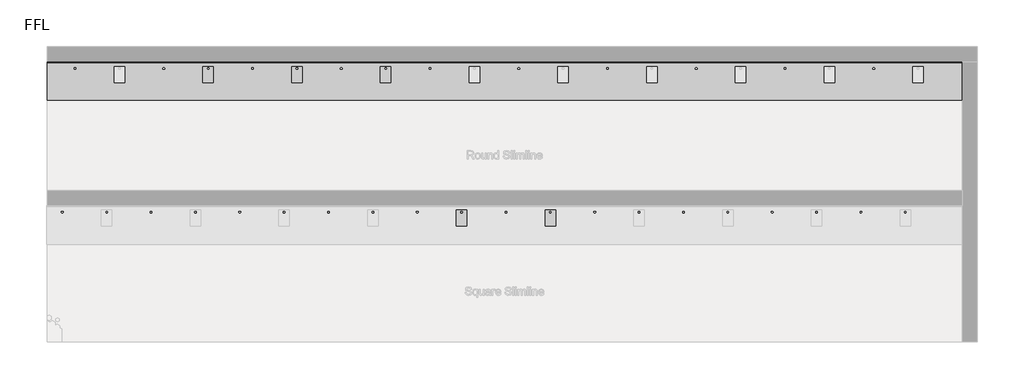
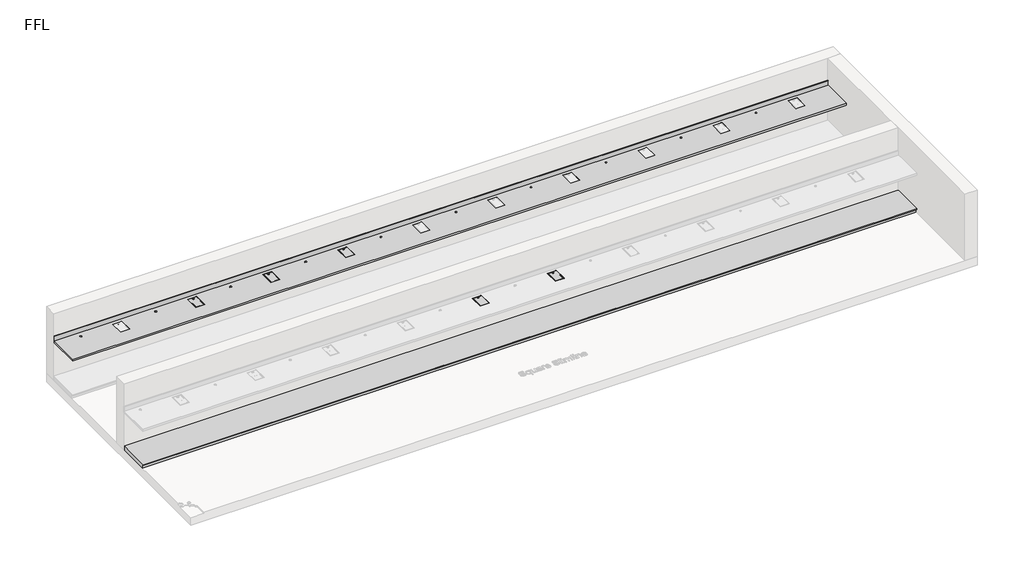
# One storey, part 2 of 3: 5 flow terminals, 2 furniture elements.
"""IFC4 building model written with IfcOpenShell, lengths in millimetres."""

from ifc_helpers import new_model, si_unit, frame, origin, place, context, project, spatial, polyline, circle_curve, transform, mapped, element, save
from ifc_brep_helpers import plane_surface, revolved_surface, advanced_brep
from components import brushed_f93afeca, generic_plinth_700mm_6c846d5c

model = new_model("IFC4")

# Units and contexts
model_context = context("Model", 3, world=origin())
ifc_project = project(units=[si_unit("LENGTHUNIT", "METRE", prefix="MILLI")], contexts=[model_context])

# Site, building, storey
site = spatial("IfcSite", under=ifc_project)
building = spatial("IfcBuilding", under=site)
storey = spatial("IfcBuildingStorey", under=building, Name="FFL", Elevation=0.0)

# Flow terminals
placement = place(None, origin())
brushed_shape = brushed_f93afeca(model_context)
element("IfcFlowTerminal", 1, ObjectType="z_PlumFixt_Billi_Slimline Font : Brushed", at=placement, inside=storey, context=model_context, shape_type="MappedRepresentation", body=[
    mapped(brushed_shape, transform((6509.2647071, 11033.3893304, 900.0), x_axis=(1.0, 0.0, 0.0), y_axis=(0.0, 1.0, 0.0), z_axis=(0.0, 0.0, 1.0))),
])
element("IfcFlowTerminal", 2, ObjectType="z_PlumFixt_Billi_Slimline Font : Chrome", at=placement, inside=storey, context=model_context, shape_type="MappedRepresentation", body=[
    mapped(brushed_shape, transform((339.2647071, 13626.6047841, 900.0), x_axis=(1.0, 0.0, 0.0), y_axis=(0.0, 1.0, 0.0), z_axis=(0.0, 0.0, 1.0))),
])
element("IfcFlowTerminal", 3, ObjectType="z_PlumFixt_Billi_Slimline Font : Matte Black", at=placement, inside=storey, context=model_context, shape_type="MappedRepresentation", body=[
    mapped(brushed_shape, transform((1939.2647071, 13626.6047841, 900.0), x_axis=(1.0, 0.0, 0.0), y_axis=(0.0, 1.0, 0.0), z_axis=(0.0, 0.0, 1.0))),
])
element("IfcFlowTerminal", 4, ObjectType="z_PlumFixt_Billi_Slimline Font : Matte White", at=placement, inside=storey, context=model_context, shape_type="MappedRepresentation", body=[
    mapped(brushed_shape, transform((3539.2647071, 13626.6047841, 900.0), x_axis=(1.0, 0.0, 0.0), y_axis=(0.0, 1.0, 0.0), z_axis=(0.0, 0.0, 1.0))),
])
element("IfcFlowTerminal", 5, ObjectType="z_PlumFixt_Billi_Slimline Font : Rose Gold", at=placement, inside=storey, context=model_context, shape_type="MappedRepresentation", body=[
    mapped(brushed_shape, transform((4909.2647071, 11033.3893304, 900.0), x_axis=(1.0, 0.0, 0.0), y_axis=(0.0, 1.0, 0.0), z_axis=(0.0, 0.0, 1.0))),
])

# Furniture
element("IfcFurniture", 6, ObjectType="Counter Top : 700mm Depth", at=placement, inside=storey, context=model_context, shape_type="AdvancedBrep", body=[
    advanced_brep(
    [(-2559.7352929, 13148.2393304, 900.0), (13940.2647071, 13148.2393304, 900.0), (13940.2647071, 13829.1893304, 900.0), (-2559.7352929, 13829.1893304, 900.0), (-2059.7352929, 13737.4547841, 900.0), (-2059.7352929, 13705.4547841, 900.0), (-1164.2352929, 13467.3547841, 900.0), (-1355.2352929, 13467.3547841, 900.0), (-1355.2352929, 13758.3547841, 900.0), (-1164.2352929, 13758.3547841, 900.0), (-459.7352929, 13737.4547841, 900.0), (-459.7352929, 13705.4547841, 900.0), (435.7647071, 13467.3547841, 900.0), (244.7647071, 13467.3547841, 900.0), (244.7647071, 13758.3547841, 900.0), (435.7647071, 13758.3547841, 900.0), (1140.2647071, 13737.4547841, 900.0), (1140.2647071, 13705.4547841, 900.0), (2035.7647071, 13467.3547841, 900.0), (1844.7647071, 13467.3547841, 900.0), (1844.7647071, 13758.3547841, 900.0), (2035.7647071, 13758.3547841, 900.0), (2740.2647071, 13737.4547841, 900.0), (2740.2647071, 13705.4547841, 900.0), (3635.7647071, 13467.3547841, 900.0), (3444.7647071, 13467.3547841, 900.0), (3444.7647071, 13758.3547841, 900.0), (3635.7647071, 13758.3547841, 900.0), (4340.2647071, 13737.4547841, 900.0), (4340.2647071, 13705.4547841, 900.0), (5235.7647071, 13467.3547841, 900.0), (5044.7647071, 13467.3547841, 900.0), (5044.7647071, 13758.3547841, 900.0), (5235.7647071, 13758.3547841, 900.0), (5940.2647071, 13737.4547841, 900.0), (5940.2647071, 13705.4547841, 900.0), (6835.7647071, 13467.3547841, 900.0), (6644.7647071, 13467.3547841, 900.0), (6644.7647071, 13758.3547841, 900.0), (6835.7647071, 13758.3547841, 900.0), (7540.2647071, 13737.4547841, 900.0), (7540.2647071, 13705.4547841, 900.0), (8435.7647071, 13467.3547841, 900.0), (8244.7647071, 13467.3547841, 900.0), (8244.7647071, 13758.3547841, 900.0), (8435.7647071, 13758.3547841, 900.0), (9140.2647071, 13737.4547841, 900.0), (9140.2647071, 13705.4547841, 900.0), (10035.7647071, 13467.3547841, 900.0), (9844.7647071, 13467.3547841, 900.0), (9844.7647071, 13758.3547841, 900.0), (10035.7647071, 13758.3547841, 900.0), (10740.2647071, 13737.4547841, 900.0), (10740.2647071, 13705.4547841, 900.0), (11635.7647071, 13467.3547841, 900.0), (11444.7647071, 13467.3547841, 900.0), (11444.7647071, 13758.3547841, 900.0), (11635.7647071, 13758.3547841, 900.0), (12340.2647071, 13737.4547841, 900.0), (12340.2647071, 13705.4547841, 900.0), (13235.7647071, 13467.3547841, 900.0), (13044.7647071, 13467.3547841, 900.0), (13044.7647071, 13758.3547841, 900.0), (13235.7647071, 13758.3547841, 900.0), (13940.2647071, 13848.2393304, 860.0), (13940.2647071, 13148.2393304, 860.0), (-2559.7352929, 13148.2393304, 860.0), (-2559.7352929, 13848.2393304, 860.0), (-2059.7352929, 13705.4547841, 860.0), (-2059.7352929, 13737.4547841, 860.0), (-1346.7352929, 13475.8547841, 860.0), (-1172.7352929, 13475.8547841, 860.0), (-1172.7352929, 13749.8547841, 860.0), (-1346.7352929, 13749.8547841, 860.0), (-459.7352929, 13705.4547841, 860.0), (-459.7352929, 13737.4547841, 860.0), (253.2647071, 13475.8547841, 860.0), (427.2647071, 13475.8547841, 860.0), (427.2647071, 13749.8547841, 860.0), (253.2647071, 13749.8547841, 860.0), (1140.2647071, 13705.4547841, 860.0), (1140.2647071, 13737.4547841, 860.0), (1853.2647071, 13475.8547841, 860.0), (2027.2647071, 13475.8547841, 860.0), (2027.2647071, 13749.8547841, 860.0), (1853.2647071, 13749.8547841, 860.0), (2740.2647071, 13705.4547841, 860.0), (2740.2647071, 13737.4547841, 860.0), (3453.2647071, 13475.8547841, 860.0), (3627.2647071, 13475.8547841, 860.0), (3627.2647071, 13749.8547841, 860.0), (3453.2647071, 13749.8547841, 860.0), (4340.2647071, 13705.4547841, 860.0), (4340.2647071, 13737.4547841, 860.0), (5053.2647071, 13475.8547841, 860.0), (5227.2647071, 13475.8547841, 860.0), (5227.2647071, 13749.8547841, 860.0), (5053.2647071, 13749.8547841, 860.0), (5940.2647071, 13705.4547841, 860.0), (5940.2647071, 13737.4547841, 860.0), (6653.2647071, 13475.8547841, 860.0), (6827.2647071, 13475.8547841, 860.0), (6827.2647071, 13749.8547841, 860.0), (6653.2647071, 13749.8547841, 860.0), (7540.2647071, 13705.4547841, 860.0), (7540.2647071, 13737.4547841, 860.0), (8253.2647071, 13475.8547841, 860.0), (8427.2647071, 13475.8547841, 860.0), (8427.2647071, 13749.8547841, 860.0), (8253.2647071, 13749.8547841, 860.0), (9140.2647071, 13705.4547841, 860.0), (9140.2647071, 13737.4547841, 860.0), (9853.2647071, 13475.8547841, 860.0), (10027.2647071, 13475.8547841, 860.0), (10027.2647071, 13749.8547841, 860.0), (9853.2647071, 13749.8547841, 860.0), (10740.2647071, 13705.4547841, 860.0), (10740.2647071, 13737.4547841, 860.0), (11453.2647071, 13475.8547841, 860.0), (11627.2647071, 13475.8547841, 860.0), (11627.2647071, 13749.8547841, 860.0), (11453.2647071, 13749.8547841, 860.0), (12340.2647071, 13705.4547841, 860.0), (12340.2647071, 13737.4547841, 860.0), (13053.2647071, 13475.8547841, 860.0), (13227.2647071, 13475.8547841, 860.0), (13227.2647071, 13749.8547841, 860.0), (13053.2647071, 13749.8547841, 860.0), (-2559.7352929, 13848.2393304, 1001.6), (13940.2647071, 13848.2393304, 1001.6), (-2559.7352929, 13829.1893304, 1001.6), (13940.2647071, 13829.1893304, 1001.6), (-1346.7352929, 13475.8547841, 894.5), (-1172.7352929, 13475.8547841, 894.5), (-1164.2352929, 13467.3547841, 894.5), (-1355.2352929, 13467.3547841, 894.5), (-1172.7352929, 13749.8547841, 894.5), (-1164.2352929, 13758.3547841, 894.5), (-1346.7352929, 13749.8547841, 894.5), (-1355.2352929, 13758.3547841, 894.5), (253.2647071, 13475.8547841, 894.5), (427.2647071, 13475.8547841, 894.5), (435.7647071, 13467.3547841, 894.5), (244.7647071, 13467.3547841, 894.5), (427.2647071, 13749.8547841, 894.5), (435.7647071, 13758.3547841, 894.5), (253.2647071, 13749.8547841, 894.5), (244.7647071, 13758.3547841, 894.5), (1853.2647071, 13475.8547841, 894.5), (2027.2647071, 13475.8547841, 894.5), (2035.7647071, 13467.3547841, 894.5), (1844.7647071, 13467.3547841, 894.5), (2027.2647071, 13749.8547841, 894.5), (2035.7647071, 13758.3547841, 894.5), (1853.2647071, 13749.8547841, 894.5), (1844.7647071, 13758.3547841, 894.5), (3453.2647071, 13475.8547841, 894.5), (3627.2647071, 13475.8547841, 894.5), (3635.7647071, 13467.3547841, 894.5), (3444.7647071, 13467.3547841, 894.5), (3627.2647071, 13749.8547841, 894.5), (3635.7647071, 13758.3547841, 894.5), (3453.2647071, 13749.8547841, 894.5), (3444.7647071, 13758.3547841, 894.5), (5053.2647071, 13475.8547841, 894.5), (5227.2647071, 13475.8547841, 894.5), (5235.7647071, 13467.3547841, 894.5), (5044.7647071, 13467.3547841, 894.5), (5227.2647071, 13749.8547841, 894.5), (5235.7647071, 13758.3547841, 894.5), (5053.2647071, 13749.8547841, 894.5), (5044.7647071, 13758.3547841, 894.5), (6653.2647071, 13475.8547841, 894.5), (6827.2647071, 13475.8547841, 894.5), (6835.7647071, 13467.3547841, 894.5), (6644.7647071, 13467.3547841, 894.5), (6827.2647071, 13749.8547841, 894.5), (6835.7647071, 13758.3547841, 894.5), (6653.2647071, 13749.8547841, 894.5), (6644.7647071, 13758.3547841, 894.5), (8253.2647071, 13475.8547841, 894.5), (8427.2647071, 13475.8547841, 894.5), (8435.7647071, 13467.3547841, 894.5), (8244.7647071, 13467.3547841, 894.5), (8427.2647071, 13749.8547841, 894.5), (8435.7647071, 13758.3547841, 894.5), (8253.2647071, 13749.8547841, 894.5), (8244.7647071, 13758.3547841, 894.5), (9853.2647071, 13475.8547841, 894.5), (10027.2647071, 13475.8547841, 894.5), (10035.7647071, 13467.3547841, 894.5), (9844.7647071, 13467.3547841, 894.5), (10027.2647071, 13749.8547841, 894.5), (10035.7647071, 13758.3547841, 894.5), (9853.2647071, 13749.8547841, 894.5), (9844.7647071, 13758.3547841, 894.5), (11453.2647071, 13475.8547841, 894.5), (11627.2647071, 13475.8547841, 894.5), (11635.7647071, 13467.3547841, 894.5), (11444.7647071, 13467.3547841, 894.5), (11627.2647071, 13749.8547841, 894.5), (11635.7647071, 13758.3547841, 894.5), (11453.2647071, 13749.8547841, 894.5), (11444.7647071, 13758.3547841, 894.5), (13053.2647071, 13475.8547841, 894.5), (13227.2647071, 13475.8547841, 894.5), (13235.7647071, 13467.3547841, 894.5), (13044.7647071, 13467.3547841, 894.5), (13227.2647071, 13749.8547841, 894.5), (13235.7647071, 13758.3547841, 894.5), (13053.2647071, 13749.8547841, 894.5), (13044.7647071, 13758.3547841, 894.5)],
    [
        (0, 1),
        (1, 2),
        (2, 3),
        (3, 0),
        (4, 5, circle_curve(frame((-2059.7352929, 13721.4547841, 900.0), z_axis=(0.0, 0.0, -1.0), x_axis=(0.0, 1.0, 0.0)), 16.0)),
        (5, 4, circle_curve(frame((-2059.7352929, 13721.4547841, 900.0), z_axis=(0.0, 0.0, -1.0), x_axis=(0.0, 1.0, 0.0)), 16.0)),
        (6, 7),
        (7, 8),
        (8, 9),
        (9, 6),
        (10, 11, circle_curve(frame((-459.7352929, 13721.4547841, 900.0), z_axis=(0.0, 0.0, -1.0), x_axis=(0.0, 1.0, 0.0)), 16.0)),
        (11, 10, circle_curve(frame((-459.7352929, 13721.4547841, 900.0), z_axis=(0.0, 0.0, -1.0), x_axis=(0.0, 1.0, 0.0)), 16.0)),
        (12, 13),
        (13, 14),
        (14, 15),
        (15, 12),
        (16, 17, circle_curve(frame((1140.2647071, 13721.4547841, 900.0), z_axis=(0.0, 0.0, -1.0), x_axis=(0.0, 1.0, 0.0)), 16.0)),
        (17, 16, circle_curve(frame((1140.2647071, 13721.4547841, 900.0), z_axis=(0.0, 0.0, -1.0), x_axis=(0.0, 1.0, 0.0)), 16.0)),
        (18, 19),
        (19, 20),
        (20, 21),
        (21, 18),
        (22, 23, circle_curve(frame((2740.2647071, 13721.4547841, 900.0), z_axis=(0.0, 0.0, -1.0), x_axis=(0.0, 1.0, 0.0)), 16.0)),
        (23, 22, circle_curve(frame((2740.2647071, 13721.4547841, 900.0), z_axis=(0.0, 0.0, -1.0), x_axis=(0.0, 1.0, 0.0)), 16.0)),
        (24, 25),
        (25, 26),
        (26, 27),
        (27, 24),
        (28, 29, circle_curve(frame((4340.2647071, 13721.4547841, 900.0), z_axis=(0.0, 0.0, -1.0), x_axis=(0.0, 1.0, 0.0)), 16.0)),
        (29, 28, circle_curve(frame((4340.2647071, 13721.4547841, 900.0), z_axis=(0.0, 0.0, -1.0), x_axis=(0.0, 1.0, 0.0)), 16.0)),
        (30, 31),
        (31, 32),
        (32, 33),
        (33, 30),
        (34, 35, circle_curve(frame((5940.2647071, 13721.4547841, 900.0), z_axis=(0.0, 0.0, -1.0), x_axis=(0.0, 1.0, 0.0)), 16.0)),
        (35, 34, circle_curve(frame((5940.2647071, 13721.4547841, 900.0), z_axis=(0.0, 0.0, -1.0), x_axis=(0.0, 1.0, 0.0)), 16.0)),
        (36, 37),
        (37, 38),
        (38, 39),
        (39, 36),
        (40, 41, circle_curve(frame((7540.2647071, 13721.4547841, 900.0), z_axis=(0.0, 0.0, -1.0), x_axis=(0.0, 1.0, 0.0)), 16.0)),
        (41, 40, circle_curve(frame((7540.2647071, 13721.4547841, 900.0), z_axis=(0.0, 0.0, -1.0), x_axis=(0.0, 1.0, 0.0)), 16.0)),
        (42, 43),
        (43, 44),
        (44, 45),
        (45, 42),
        (46, 47, circle_curve(frame((9140.2647071, 13721.4547841, 900.0), z_axis=(0.0, 0.0, -1.0), x_axis=(0.0, 1.0, 0.0)), 16.0)),
        (47, 46, circle_curve(frame((9140.2647071, 13721.4547841, 900.0), z_axis=(0.0, 0.0, -1.0), x_axis=(0.0, 1.0, 0.0)), 16.0)),
        (48, 49),
        (49, 50),
        (50, 51),
        (51, 48),
        (52, 53, circle_curve(frame((10740.2647071, 13721.4547841, 900.0), z_axis=(0.0, 0.0, -1.0), x_axis=(0.0, 1.0, 0.0)), 16.0)),
        (53, 52, circle_curve(frame((10740.2647071, 13721.4547841, 900.0), z_axis=(0.0, 0.0, -1.0), x_axis=(0.0, 1.0, 0.0)), 16.0)),
        (54, 55),
        (55, 56),
        (56, 57),
        (57, 54),
        (58, 59, circle_curve(frame((12340.2647071, 13721.4547841, 900.0), z_axis=(0.0, 0.0, -1.0), x_axis=(0.0, 1.0, 0.0)), 16.0)),
        (59, 58, circle_curve(frame((12340.2647071, 13721.4547841, 900.0), z_axis=(0.0, 0.0, -1.0), x_axis=(0.0, 1.0, 0.0)), 16.0)),
        (60, 61),
        (61, 62),
        (62, 63),
        (63, 60),
        (64, 65),
        (65, 66),
        (66, 67),
        (67, 64),
        (68, 69, circle_curve(frame((-2059.7352929, 13721.4547841, 860.0), z_axis=(0.0, 0.0, 1.0), x_axis=(0.0, 1.0, 0.0)), 16.0)),
        (69, 68, circle_curve(frame((-2059.7352929, 13721.4547841, 860.0), z_axis=(0.0, 0.0, 1.0), x_axis=(0.0, 1.0, 0.0)), 16.0)),
        (70, 71),
        (71, 72),
        (72, 73),
        (73, 70),
        (74, 75, circle_curve(frame((-459.7352929, 13721.4547841, 860.0), z_axis=(0.0, 0.0, 1.0), x_axis=(0.0, 1.0, 0.0)), 16.0)),
        (75, 74, circle_curve(frame((-459.7352929, 13721.4547841, 860.0), z_axis=(0.0, 0.0, 1.0), x_axis=(0.0, 1.0, 0.0)), 16.0)),
        (76, 77),
        (77, 78),
        (78, 79),
        (79, 76),
        (80, 81, circle_curve(frame((1140.2647071, 13721.4547841, 860.0), z_axis=(0.0, 0.0, 1.0), x_axis=(0.0, 1.0, 0.0)), 16.0)),
        (81, 80, circle_curve(frame((1140.2647071, 13721.4547841, 860.0), z_axis=(0.0, 0.0, 1.0), x_axis=(0.0, 1.0, 0.0)), 16.0)),
        (82, 83),
        (83, 84),
        (84, 85),
        (85, 82),
        (86, 87, circle_curve(frame((2740.2647071, 13721.4547841, 860.0), z_axis=(0.0, 0.0, 1.0), x_axis=(0.0, 1.0, 0.0)), 16.0)),
        (87, 86, circle_curve(frame((2740.2647071, 13721.4547841, 860.0), z_axis=(0.0, 0.0, 1.0), x_axis=(0.0, 1.0, 0.0)), 16.0)),
        (88, 89),
        (89, 90),
        (90, 91),
        (91, 88),
        (92, 93, circle_curve(frame((4340.2647071, 13721.4547841, 860.0), z_axis=(0.0, 0.0, 1.0), x_axis=(0.0, 1.0, 0.0)), 16.0)),
        (93, 92, circle_curve(frame((4340.2647071, 13721.4547841, 860.0), z_axis=(0.0, 0.0, 1.0), x_axis=(0.0, 1.0, 0.0)), 16.0)),
        (94, 95),
        (95, 96),
        (96, 97),
        (97, 94),
        (98, 99, circle_curve(frame((5940.2647071, 13721.4547841, 860.0), z_axis=(0.0, 0.0, 1.0), x_axis=(0.0, 1.0, 0.0)), 16.0)),
        (99, 98, circle_curve(frame((5940.2647071, 13721.4547841, 860.0), z_axis=(0.0, 0.0, 1.0), x_axis=(0.0, 1.0, 0.0)), 16.0)),
        (100, 101),
        (101, 102),
        (102, 103),
        (103, 100),
        (104, 105, circle_curve(frame((7540.2647071, 13721.4547841, 860.0), z_axis=(0.0, 0.0, 1.0), x_axis=(0.0, 1.0, 0.0)), 16.0)),
        (105, 104, circle_curve(frame((7540.2647071, 13721.4547841, 860.0), z_axis=(0.0, 0.0, 1.0), x_axis=(0.0, 1.0, 0.0)), 16.0)),
        (106, 107),
        (107, 108),
        (108, 109),
        (109, 106),
        (110, 111, circle_curve(frame((9140.2647071, 13721.4547841, 860.0), z_axis=(0.0, 0.0, 1.0), x_axis=(0.0, 1.0, 0.0)), 16.0)),
        (111, 110, circle_curve(frame((9140.2647071, 13721.4547841, 860.0), z_axis=(0.0, 0.0, 1.0), x_axis=(0.0, 1.0, 0.0)), 16.0)),
        (112, 113),
        (113, 114),
        (114, 115),
        (115, 112),
        (116, 117, circle_curve(frame((10740.2647071, 13721.4547841, 860.0), z_axis=(0.0, 0.0, 1.0), x_axis=(0.0, 1.0, 0.0)), 16.0)),
        (117, 116, circle_curve(frame((10740.2647071, 13721.4547841, 860.0), z_axis=(0.0, 0.0, 1.0), x_axis=(0.0, 1.0, 0.0)), 16.0)),
        (118, 119),
        (119, 120),
        (120, 121),
        (121, 118),
        (122, 123, circle_curve(frame((12340.2647071, 13721.4547841, 860.0), z_axis=(0.0, 0.0, 1.0), x_axis=(0.0, 1.0, 0.0)), 16.0)),
        (123, 122, circle_curve(frame((12340.2647071, 13721.4547841, 860.0), z_axis=(0.0, 0.0, 1.0), x_axis=(0.0, 1.0, 0.0)), 16.0)),
        (124, 125),
        (125, 126),
        (126, 127),
        (127, 124),
        (67, 128),
        (128, 129),
        (129, 64),
        (3, 130),
        (130, 128),
        (66, 0),
        (65, 1),
        (129, 131),
        (131, 2),
        (130, 131),
        (68, 5),
        (4, 69),
        (132, 133),
        (133, 71),
        (70, 132),
        (6, 134),
        (134, 135),
        (135, 7),
        (133, 136),
        (136, 72),
        (9, 137),
        (137, 134),
        (136, 138),
        (138, 73),
        (8, 139),
        (139, 137),
        (138, 132),
        (139, 135),
        (74, 11),
        (10, 75),
        (140, 141),
        (141, 77),
        (76, 140),
        (12, 142),
        (142, 143),
        (143, 13),
        (141, 144),
        (144, 78),
        (15, 145),
        (145, 142),
        (144, 146),
        (146, 79),
        (14, 147),
        (147, 145),
        (146, 140),
        (147, 143),
        (80, 17),
        (16, 81),
        (148, 149),
        (149, 83),
        (82, 148),
        (18, 150),
        (150, 151),
        (151, 19),
        (149, 152),
        (152, 84),
        (21, 153),
        (153, 150),
        (152, 154),
        (154, 85),
        (20, 155),
        (155, 153),
        (154, 148),
        (155, 151),
        (86, 23),
        (22, 87),
        (156, 157),
        (157, 89),
        (88, 156),
        (24, 158),
        (158, 159),
        (159, 25),
        (157, 160),
        (160, 90),
        (27, 161),
        (161, 158),
        (160, 162),
        (162, 91),
        (26, 163),
        (163, 161),
        (162, 156),
        (163, 159),
        (92, 29),
        (28, 93),
        (164, 165),
        (165, 95),
        (94, 164),
        (30, 166),
        (166, 167),
        (167, 31),
        (165, 168),
        (168, 96),
        (33, 169),
        (169, 166),
        (168, 170),
        (170, 97),
        (32, 171),
        (171, 169),
        (170, 164),
        (171, 167),
        (98, 35),
        (34, 99),
        (172, 173),
        (173, 101),
        (100, 172),
        (36, 174),
        (174, 175),
        (175, 37),
        (173, 176),
        (176, 102),
        (39, 177),
        (177, 174),
        (176, 178),
        (178, 103),
        (38, 179),
        (179, 177),
        (178, 172),
        (179, 175),
        (104, 41),
        (40, 105),
        (180, 181),
        (181, 107),
        (106, 180),
        (42, 182),
        (182, 183),
        (183, 43),
        (181, 184),
        (184, 108),
        (45, 185),
        (185, 182),
        (184, 186),
        (186, 109),
        (44, 187),
        (187, 185),
        (186, 180),
        (187, 183),
        (110, 47),
        (46, 111),
        (188, 189),
        (189, 113),
        (112, 188),
        (48, 190),
        (190, 191),
        (191, 49),
        (189, 192),
        (192, 114),
        (51, 193),
        (193, 190),
        (192, 194),
        (194, 115),
        (50, 195),
        (195, 193),
        (194, 188),
        (195, 191),
        (116, 53),
        (52, 117),
        (196, 197),
        (197, 119),
        (118, 196),
        (54, 198),
        (198, 199),
        (199, 55),
        (197, 200),
        (200, 120),
        (57, 201),
        (201, 198),
        (200, 202),
        (202, 121),
        (56, 203),
        (203, 201),
        (202, 196),
        (203, 199),
        (122, 59),
        (58, 123),
        (204, 205),
        (205, 125),
        (124, 204),
        (60, 206),
        (206, 207),
        (207, 61),
        (205, 208),
        (208, 126),
        (63, 209),
        (209, 206),
        (208, 210),
        (210, 127),
        (62, 211),
        (211, 209),
        (210, 204),
        (211, 207),
    ],
    [
        plane_surface(frame((-2559.7352929, 13848.2393304, 900.0), z_axis=(0.0, 0.0, 1.0), x_axis=(-1.0, 0.0, 0.0))),
        plane_surface(frame((-2559.7352929, 13848.2393304, 860.0), z_axis=(0.0, 0.0, -1.0), x_axis=(1.0, 0.0, 0.0))),
        plane_surface(frame((13940.2647071, 13848.2393304, 900.0), z_axis=(0.0, 1.0, 0.0), x_axis=(0.0, 0.0, -1.0))),
        plane_surface(frame((-2559.7352929, 13848.2393304, 900.0), z_axis=(-1.0, 0.0, 0.0), x_axis=(0.0, 0.0, -1.0))),
        plane_surface(frame((-2559.7352929, 13148.2393304, 900.0), z_axis=(0.0, -1.0, 0.0), x_axis=(0.0, 0.0, -1.0))),
        plane_surface(frame((13940.2647071, 13148.2393304, 900.0), z_axis=(1.0, 0.0, 0.0), x_axis=(0.0, 0.0, -1.0))),
        plane_surface(frame((-2559.7352929, 13848.2393304, 1001.6), z_axis=(0.0, 0.0, 1.0), x_axis=(0.0, -1.0, 0.0))),
        plane_surface(frame((-2559.7352929, 13829.1893304, 1001.6), z_axis=(0.0, -1.0, 0.0), x_axis=(0.0, 0.0, -1.0))),
        revolved_surface(polyline([(-2059.7352929, 13737.4547841, 900.0), (-2059.7352929, 13737.4547841, 860.0)]), (-2059.7352929, 13721.4547841, 800.0), (0.0, 0.0, 1.0)),
        plane_surface(frame((-1346.7352929, 13475.8547841, 800.0), z_axis=(0.0, 1.0, 0.0), x_axis=(1.0, 0.0, 0.0))),
        plane_surface(frame((-1355.2352929, 13467.3547841, 894.5), z_axis=(0.0, 1.0, 0.0), x_axis=(1.0, 0.0, 0.0))),
        plane_surface(frame((-1172.7352929, 13475.8547841, 800.0), z_axis=(-1.0, 0.0, 0.0), x_axis=(0.0, 1.0, 0.0))),
        plane_surface(frame((-1164.2352929, 13467.3547841, 894.5), z_axis=(-1.0, 0.0, 0.0), x_axis=(0.0, 1.0, 0.0))),
        plane_surface(frame((-1172.7352929, 13749.8547841, 800.0), z_axis=(0.0, -1.0, 0.0), x_axis=(-1.0, 0.0, 0.0))),
        plane_surface(frame((-1164.2352929, 13758.3547841, 894.5), z_axis=(0.0, -1.0, 0.0), x_axis=(-1.0, 0.0, 0.0))),
        plane_surface(frame((-1346.7352929, 13749.8547841, 800.0), z_axis=(1.0, 0.0, 0.0), x_axis=(0.0, -1.0, 0.0))),
        plane_surface(frame((-1346.7352929, 13749.8547841, 894.5), z_axis=(0.0, 0.0, 1.0), x_axis=(0.0, -1.0, 0.0))),
        plane_surface(frame((-1355.2352929, 13758.3547841, 894.5), z_axis=(1.0, 0.0, 0.0), x_axis=(0.0, -1.0, 0.0))),
        revolved_surface(polyline([(-459.7352929, 13737.4547841, 900.0), (-459.7352929, 13737.4547841, 860.0)]), (-459.7352929, 13721.4547841, 800.0), (0.0, 0.0, 1.0)),
        plane_surface(frame((253.2647071, 13475.8547841, 800.0), z_axis=(0.0, 1.0, 0.0), x_axis=(1.0, 0.0, 0.0))),
        plane_surface(frame((244.7647071, 13467.3547841, 894.5), z_axis=(0.0, 1.0, 0.0), x_axis=(1.0, 0.0, 0.0))),
        plane_surface(frame((427.2647071, 13475.8547841, 800.0), z_axis=(-1.0, 0.0, 0.0), x_axis=(0.0, 1.0, 0.0))),
        plane_surface(frame((435.7647071, 13467.3547841, 894.5), z_axis=(-1.0, 0.0, 0.0), x_axis=(0.0, 1.0, 0.0))),
        plane_surface(frame((427.2647071, 13749.8547841, 800.0), z_axis=(0.0, -1.0, 0.0), x_axis=(-1.0, 0.0, 0.0))),
        plane_surface(frame((435.7647071, 13758.3547841, 894.5), z_axis=(0.0, -1.0, 0.0), x_axis=(-1.0, 0.0, 0.0))),
        plane_surface(frame((253.2647071, 13749.8547841, 800.0), z_axis=(1.0, 0.0, 0.0), x_axis=(0.0, -1.0, 0.0))),
        plane_surface(frame((253.2647071, 13749.8547841, 894.5), z_axis=(0.0, 0.0, 1.0), x_axis=(0.0, -1.0, 0.0))),
        plane_surface(frame((244.7647071, 13758.3547841, 894.5), z_axis=(1.0, 0.0, 0.0), x_axis=(0.0, -1.0, 0.0))),
        revolved_surface(polyline([(1140.2647071, 13737.4547841, 900.0), (1140.2647071, 13737.4547841, 860.0)]), (1140.2647071, 13721.4547841, 800.0), (0.0, 0.0, 1.0)),
        plane_surface(frame((1853.2647071, 13475.8547841, 800.0), z_axis=(0.0, 1.0, 0.0), x_axis=(1.0, 0.0, 0.0))),
        plane_surface(frame((1844.7647071, 13467.3547841, 894.5), z_axis=(0.0, 1.0, 0.0), x_axis=(1.0, 0.0, 0.0))),
        plane_surface(frame((2027.2647071, 13475.8547841, 800.0), z_axis=(-1.0, 0.0, 0.0), x_axis=(0.0, 1.0, 0.0))),
        plane_surface(frame((2035.7647071, 13467.3547841, 894.5), z_axis=(-1.0, 0.0, 0.0), x_axis=(0.0, 1.0, 0.0))),
        plane_surface(frame((2027.2647071, 13749.8547841, 800.0), z_axis=(0.0, -1.0, 0.0), x_axis=(-1.0, 0.0, 0.0))),
        plane_surface(frame((2035.7647071, 13758.3547841, 894.5), z_axis=(0.0, -1.0, 0.0), x_axis=(-1.0, 0.0, 0.0))),
        plane_surface(frame((1853.2647071, 13749.8547841, 800.0), z_axis=(1.0, 0.0, 0.0), x_axis=(0.0, -1.0, 0.0))),
        plane_surface(frame((1853.2647071, 13749.8547841, 894.5), z_axis=(0.0, 0.0, 1.0), x_axis=(0.0, -1.0, 0.0))),
        plane_surface(frame((1844.7647071, 13758.3547841, 894.5), z_axis=(1.0, 0.0, 0.0), x_axis=(0.0, -1.0, 0.0))),
        revolved_surface(polyline([(2740.2647071, 13737.4547841, 900.0), (2740.2647071, 13737.4547841, 860.0)]), (2740.2647071, 13721.4547841, 800.0), (0.0, 0.0, 1.0)),
        plane_surface(frame((3453.2647071, 13475.8547841, 800.0), z_axis=(0.0, 1.0, 0.0), x_axis=(1.0, 0.0, 0.0))),
        plane_surface(frame((3444.7647071, 13467.3547841, 894.5), z_axis=(0.0, 1.0, 0.0), x_axis=(1.0, 0.0, 0.0))),
        plane_surface(frame((3627.2647071, 13475.8547841, 800.0), z_axis=(-1.0, 0.0, 0.0), x_axis=(0.0, 1.0, 0.0))),
        plane_surface(frame((3635.7647071, 13467.3547841, 894.5), z_axis=(-1.0, 0.0, 0.0), x_axis=(0.0, 1.0, 0.0))),
        plane_surface(frame((3627.2647071, 13749.8547841, 800.0), z_axis=(0.0, -1.0, 0.0), x_axis=(-1.0, 0.0, 0.0))),
        plane_surface(frame((3635.7647071, 13758.3547841, 894.5), z_axis=(0.0, -1.0, 0.0), x_axis=(-1.0, 0.0, 0.0))),
        plane_surface(frame((3453.2647071, 13749.8547841, 800.0), z_axis=(1.0, 0.0, 0.0), x_axis=(0.0, -1.0, 0.0))),
        plane_surface(frame((3453.2647071, 13749.8547841, 894.5), z_axis=(0.0, 0.0, 1.0), x_axis=(0.0, -1.0, 0.0))),
        plane_surface(frame((3444.7647071, 13758.3547841, 894.5), z_axis=(1.0, 0.0, 0.0), x_axis=(0.0, -1.0, 0.0))),
        revolved_surface(polyline([(4340.2647071, 13737.4547841, 900.0), (4340.2647071, 13737.4547841, 860.0)]), (4340.2647071, 13721.4547841, 800.0), (0.0, 0.0, 1.0)),
        plane_surface(frame((5053.2647071, 13475.8547841, 800.0), z_axis=(0.0, 1.0, 0.0), x_axis=(1.0, 0.0, 0.0))),
        plane_surface(frame((5044.7647071, 13467.3547841, 894.5), z_axis=(0.0, 1.0, 0.0), x_axis=(1.0, 0.0, 0.0))),
        plane_surface(frame((5227.2647071, 13475.8547841, 800.0), z_axis=(-1.0, 0.0, 0.0), x_axis=(0.0, 1.0, 0.0))),
        plane_surface(frame((5235.7647071, 13467.3547841, 894.5), z_axis=(-1.0, 0.0, 0.0), x_axis=(0.0, 1.0, 0.0))),
        plane_surface(frame((5227.2647071, 13749.8547841, 800.0), z_axis=(0.0, -1.0, 0.0), x_axis=(-1.0, 0.0, 0.0))),
        plane_surface(frame((5235.7647071, 13758.3547841, 894.5), z_axis=(0.0, -1.0, 0.0), x_axis=(-1.0, 0.0, 0.0))),
        plane_surface(frame((5053.2647071, 13749.8547841, 800.0), z_axis=(1.0, 0.0, 0.0), x_axis=(0.0, -1.0, 0.0))),
        plane_surface(frame((5053.2647071, 13749.8547841, 894.5), z_axis=(0.0, 0.0, 1.0), x_axis=(0.0, -1.0, 0.0))),
        plane_surface(frame((5044.7647071, 13758.3547841, 894.5), z_axis=(1.0, 0.0, 0.0), x_axis=(0.0, -1.0, 0.0))),
        revolved_surface(polyline([(5940.2647071, 13737.4547841, 900.0), (5940.2647071, 13737.4547841, 860.0)]), (5940.2647071, 13721.4547841, 800.0), (0.0, 0.0, 1.0)),
        plane_surface(frame((6653.2647071, 13475.8547841, 800.0), z_axis=(0.0, 1.0, 0.0), x_axis=(1.0, 0.0, 0.0))),
        plane_surface(frame((6644.7647071, 13467.3547841, 894.5), z_axis=(0.0, 1.0, 0.0), x_axis=(1.0, 0.0, 0.0))),
        plane_surface(frame((6827.2647071, 13475.8547841, 800.0), z_axis=(-1.0, 0.0, 0.0), x_axis=(0.0, 1.0, 0.0))),
        plane_surface(frame((6835.7647071, 13467.3547841, 894.5), z_axis=(-1.0, 0.0, 0.0), x_axis=(0.0, 1.0, 0.0))),
        plane_surface(frame((6827.2647071, 13749.8547841, 800.0), z_axis=(0.0, -1.0, 0.0), x_axis=(-1.0, 0.0, 0.0))),
        plane_surface(frame((6835.7647071, 13758.3547841, 894.5), z_axis=(0.0, -1.0, 0.0), x_axis=(-1.0, 0.0, 0.0))),
        plane_surface(frame((6653.2647071, 13749.8547841, 800.0), z_axis=(1.0, 0.0, 0.0), x_axis=(0.0, -1.0, 0.0))),
        plane_surface(frame((6653.2647071, 13749.8547841, 894.5), z_axis=(0.0, 0.0, 1.0), x_axis=(0.0, -1.0, 0.0))),
        plane_surface(frame((6644.7647071, 13758.3547841, 894.5), z_axis=(1.0, 0.0, 0.0), x_axis=(0.0, -1.0, 0.0))),
        revolved_surface(polyline([(7540.2647071, 13737.4547841, 900.0), (7540.2647071, 13737.4547841, 860.0)]), (7540.2647071, 13721.4547841, 800.0), (0.0, 0.0, 1.0)),
        plane_surface(frame((8253.2647071, 13475.8547841, 800.0), z_axis=(0.0, 1.0, 0.0), x_axis=(1.0, 0.0, 0.0))),
        plane_surface(frame((8244.7647071, 13467.3547841, 894.5), z_axis=(0.0, 1.0, 0.0), x_axis=(1.0, 0.0, 0.0))),
        plane_surface(frame((8427.2647071, 13475.8547841, 800.0), z_axis=(-1.0, 0.0, 0.0), x_axis=(0.0, 1.0, 0.0))),
        plane_surface(frame((8435.7647071, 13467.3547841, 894.5), z_axis=(-1.0, 0.0, 0.0), x_axis=(0.0, 1.0, 0.0))),
        plane_surface(frame((8427.2647071, 13749.8547841, 800.0), z_axis=(0.0, -1.0, 0.0), x_axis=(-1.0, 0.0, 0.0))),
        plane_surface(frame((8435.7647071, 13758.3547841, 894.5), z_axis=(0.0, -1.0, 0.0), x_axis=(-1.0, 0.0, 0.0))),
        plane_surface(frame((8253.2647071, 13749.8547841, 800.0), z_axis=(1.0, 0.0, 0.0), x_axis=(0.0, -1.0, 0.0))),
        plane_surface(frame((8253.2647071, 13749.8547841, 894.5), z_axis=(0.0, 0.0, 1.0), x_axis=(0.0, -1.0, 0.0))),
        plane_surface(frame((8244.7647071, 13758.3547841, 894.5), z_axis=(1.0, 0.0, 0.0), x_axis=(0.0, -1.0, 0.0))),
        revolved_surface(polyline([(9140.2647071, 13737.4547841, 900.0), (9140.2647071, 13737.4547841, 860.0)]), (9140.2647071, 13721.4547841, 800.0), (0.0, 0.0, 1.0)),
        plane_surface(frame((9853.2647071, 13475.8547841, 800.0), z_axis=(0.0, 1.0, 0.0), x_axis=(1.0, 0.0, 0.0))),
        plane_surface(frame((9844.7647071, 13467.3547841, 894.5), z_axis=(0.0, 1.0, 0.0), x_axis=(1.0, 0.0, 0.0))),
        plane_surface(frame((10027.2647071, 13475.8547841, 800.0), z_axis=(-1.0, 0.0, 0.0), x_axis=(0.0, 1.0, 0.0))),
        plane_surface(frame((10035.7647071, 13467.3547841, 894.5), z_axis=(-1.0, 0.0, 0.0), x_axis=(0.0, 1.0, 0.0))),
        plane_surface(frame((10027.2647071, 13749.8547841, 800.0), z_axis=(0.0, -1.0, 0.0), x_axis=(-1.0, 0.0, 0.0))),
        plane_surface(frame((10035.7647071, 13758.3547841, 894.5), z_axis=(0.0, -1.0, 0.0), x_axis=(-1.0, 0.0, 0.0))),
        plane_surface(frame((9853.2647071, 13749.8547841, 800.0), z_axis=(1.0, 0.0, 0.0), x_axis=(0.0, -1.0, 0.0))),
        plane_surface(frame((9853.2647071, 13749.8547841, 894.5), z_axis=(0.0, 0.0, 1.0), x_axis=(0.0, -1.0, 0.0))),
        plane_surface(frame((9844.7647071, 13758.3547841, 894.5), z_axis=(1.0, 0.0, 0.0), x_axis=(0.0, -1.0, 0.0))),
        revolved_surface(polyline([(10740.2647071, 13737.4547841, 900.0), (10740.2647071, 13737.4547841, 860.0)]), (10740.2647071, 13721.4547841, 800.0), (0.0, 0.0, 1.0)),
        plane_surface(frame((11453.2647071, 13475.8547841, 800.0), z_axis=(0.0, 1.0, 0.0), x_axis=(1.0, 0.0, 0.0))),
        plane_surface(frame((11444.7647071, 13467.3547841, 894.5), z_axis=(0.0, 1.0, 0.0), x_axis=(1.0, 0.0, 0.0))),
        plane_surface(frame((11627.2647071, 13475.8547841, 800.0), z_axis=(-1.0, 0.0, 0.0), x_axis=(0.0, 1.0, 0.0))),
        plane_surface(frame((11635.7647071, 13467.3547841, 894.5), z_axis=(-1.0, 0.0, 0.0), x_axis=(0.0, 1.0, 0.0))),
        plane_surface(frame((11627.2647071, 13749.8547841, 800.0), z_axis=(0.0, -1.0, 0.0), x_axis=(-1.0, 0.0, 0.0))),
        plane_surface(frame((11635.7647071, 13758.3547841, 894.5), z_axis=(0.0, -1.0, 0.0), x_axis=(-1.0, 0.0, 0.0))),
        plane_surface(frame((11453.2647071, 13749.8547841, 800.0), z_axis=(1.0, 0.0, 0.0), x_axis=(0.0, -1.0, 0.0))),
        plane_surface(frame((11453.2647071, 13749.8547841, 894.5), z_axis=(0.0, 0.0, 1.0), x_axis=(0.0, -1.0, 0.0))),
        plane_surface(frame((11444.7647071, 13758.3547841, 894.5), z_axis=(1.0, 0.0, 0.0), x_axis=(0.0, -1.0, 0.0))),
        revolved_surface(polyline([(12340.2647071, 13737.4547841, 900.0), (12340.2647071, 13737.4547841, 860.0)]), (12340.2647071, 13721.4547841, 800.0), (0.0, 0.0, 1.0)),
        plane_surface(frame((13053.2647071, 13475.8547841, 800.0), z_axis=(0.0, 1.0, 0.0), x_axis=(1.0, 0.0, 0.0))),
        plane_surface(frame((13044.7647071, 13467.3547841, 894.5), z_axis=(0.0, 1.0, 0.0), x_axis=(1.0, 0.0, 0.0))),
        plane_surface(frame((13227.2647071, 13475.8547841, 800.0), z_axis=(-1.0, 0.0, 0.0), x_axis=(0.0, 1.0, 0.0))),
        plane_surface(frame((13235.7647071, 13467.3547841, 894.5), z_axis=(-1.0, 0.0, 0.0), x_axis=(0.0, 1.0, 0.0))),
        plane_surface(frame((13227.2647071, 13749.8547841, 800.0), z_axis=(0.0, -1.0, 0.0), x_axis=(-1.0, 0.0, 0.0))),
        plane_surface(frame((13235.7647071, 13758.3547841, 894.5), z_axis=(0.0, -1.0, 0.0), x_axis=(-1.0, 0.0, 0.0))),
        plane_surface(frame((13053.2647071, 13749.8547841, 800.0), z_axis=(1.0, 0.0, 0.0), x_axis=(0.0, -1.0, 0.0))),
        plane_surface(frame((13053.2647071, 13749.8547841, 894.5), z_axis=(0.0, 0.0, 1.0), x_axis=(0.0, -1.0, 0.0))),
        plane_surface(frame((13044.7647071, 13758.3547841, 894.5), z_axis=(1.0, 0.0, 0.0), x_axis=(0.0, -1.0, 0.0))),
    ],
    [
        (0, [[1, 2, 3, 4], [5, 6], [7, 8, 9, 10], [11, 12], [13, 14, 15, 16], [17, 18], [19, 20, 21, 22], [23, 24], [25, 26, 27, 28], [29, 30], [31, 32, 33, 34], [35, 36], [37, 38, 39, 40], [41, 42], [43, 44, 45, 46], [47, 48], [49, 50, 51, 52], [53, 54], [55, 56, 57, 58], [59, 60], [61, 62, 63, 64]]),
        (1, [[65, 66, 67, 68], [69, 70], [71, 72, 73, 74], [75, 76], [77, 78, 79, 80], [81, 82], [83, 84, 85, 86], [87, 88], [89, 90, 91, 92], [93, 94], [95, 96, 97, 98], [99, 100], [101, 102, 103, 104], [105, 106], [107, 108, 109, 110], [111, 112], [113, 114, 115, 116], [117, 118], [119, 120, 121, 122], [123, 124], [125, 126, 127, 128]]),
        (2, [[-68, 129, 130, 131]]),
        (3, [[-4, 132, 133, -129, -67, 134]]),
        (4, [[-1, -134, -66, 135]]),
        (5, [[-2, -135, -65, -131, 136, 137]]),
        (6, [[-130, -133, 138, -136]]),
        (7, [[-3, -137, -138, -132]]),
        (8, [[139, -5, 140, -69]]),
        (8, [[-139, -70, -140, -6]]),
        (9, [[141, 142, -71, 143]]),
        (10, [[144, 145, 146, -7]]),
        (11, [[147, 148, -72, -142]]),
        (12, [[-144, -10, 149, 150]]),
        (13, [[151, 152, -73, -148]]),
        (14, [[-149, -9, 153, 154]]),
        (15, [[155, -143, -74, -152]]),
        (16, [[-145, -150, -154, 156], [-141, -155, -151, -147]]),
        (17, [[-146, -156, -153, -8]]),
        (18, [[157, -11, 158, -75]]),
        (18, [[-157, -76, -158, -12]]),
        (19, [[159, 160, -77, 161]]),
        (20, [[162, 163, 164, -13]]),
        (21, [[165, 166, -78, -160]]),
        (22, [[-162, -16, 167, 168]]),
        (23, [[169, 170, -79, -166]]),
        (24, [[-167, -15, 171, 172]]),
        (25, [[173, -161, -80, -170]]),
        (26, [[-163, -168, -172, 174], [-159, -173, -169, -165]]),
        (27, [[-164, -174, -171, -14]]),
        (28, [[175, -17, 176, -81]]),
        (28, [[-175, -82, -176, -18]]),
        (29, [[177, 178, -83, 179]]),
        (30, [[180, 181, 182, -19]]),
        (31, [[183, 184, -84, -178]]),
        (32, [[-180, -22, 185, 186]]),
        (33, [[187, 188, -85, -184]]),
        (34, [[-185, -21, 189, 190]]),
        (35, [[191, -179, -86, -188]]),
        (36, [[-181, -186, -190, 192], [-177, -191, -187, -183]]),
        (37, [[-182, -192, -189, -20]]),
        (38, [[193, -23, 194, -87]]),
        (38, [[-193, -88, -194, -24]]),
        (39, [[195, 196, -89, 197]]),
        (40, [[198, 199, 200, -25]]),
        (41, [[201, 202, -90, -196]]),
        (42, [[-198, -28, 203, 204]]),
        (43, [[205, 206, -91, -202]]),
        (44, [[-203, -27, 207, 208]]),
        (45, [[209, -197, -92, -206]]),
        (46, [[-199, -204, -208, 210], [-195, -209, -205, -201]]),
        (47, [[-200, -210, -207, -26]]),
        (48, [[211, -29, 212, -93]]),
        (48, [[-211, -94, -212, -30]]),
        (49, [[213, 214, -95, 215]]),
        (50, [[216, 217, 218, -31]]),
        (51, [[219, 220, -96, -214]]),
        (52, [[-216, -34, 221, 222]]),
        (53, [[223, 224, -97, -220]]),
        (54, [[-221, -33, 225, 226]]),
        (55, [[227, -215, -98, -224]]),
        (56, [[-217, -222, -226, 228], [-213, -227, -223, -219]]),
        (57, [[-218, -228, -225, -32]]),
        (58, [[229, -35, 230, -99]]),
        (58, [[-229, -100, -230, -36]]),
        (59, [[231, 232, -101, 233]]),
        (60, [[234, 235, 236, -37]]),
        (61, [[237, 238, -102, -232]]),
        (62, [[-234, -40, 239, 240]]),
        (63, [[241, 242, -103, -238]]),
        (64, [[-239, -39, 243, 244]]),
        (65, [[245, -233, -104, -242]]),
        (66, [[-235, -240, -244, 246], [-231, -245, -241, -237]]),
        (67, [[-236, -246, -243, -38]]),
        (68, [[247, -41, 248, -105]]),
        (68, [[-247, -106, -248, -42]]),
        (69, [[249, 250, -107, 251]]),
        (70, [[252, 253, 254, -43]]),
        (71, [[255, 256, -108, -250]]),
        (72, [[-252, -46, 257, 258]]),
        (73, [[259, 260, -109, -256]]),
        (74, [[-257, -45, 261, 262]]),
        (75, [[263, -251, -110, -260]]),
        (76, [[-253, -258, -262, 264], [-249, -263, -259, -255]]),
        (77, [[-254, -264, -261, -44]]),
        (78, [[265, -47, 266, -111]]),
        (78, [[-265, -112, -266, -48]]),
        (79, [[267, 268, -113, 269]]),
        (80, [[270, 271, 272, -49]]),
        (81, [[273, 274, -114, -268]]),
        (82, [[-270, -52, 275, 276]]),
        (83, [[277, 278, -115, -274]]),
        (84, [[-275, -51, 279, 280]]),
        (85, [[281, -269, -116, -278]]),
        (86, [[-271, -276, -280, 282], [-267, -281, -277, -273]]),
        (87, [[-272, -282, -279, -50]]),
        (88, [[283, -53, 284, -117]]),
        (88, [[-283, -118, -284, -54]]),
        (89, [[285, 286, -119, 287]]),
        (90, [[288, 289, 290, -55]]),
        (91, [[291, 292, -120, -286]]),
        (92, [[-288, -58, 293, 294]]),
        (93, [[295, 296, -121, -292]]),
        (94, [[-293, -57, 297, 298]]),
        (95, [[299, -287, -122, -296]]),
        (96, [[-289, -294, -298, 300], [-285, -299, -295, -291]]),
        (97, [[-290, -300, -297, -56]]),
        (98, [[301, -59, 302, -123]]),
        (98, [[-301, -124, -302, -60]]),
        (99, [[303, 304, -125, 305]]),
        (100, [[306, 307, 308, -61]]),
        (101, [[309, 310, -126, -304]]),
        (102, [[-306, -64, 311, 312]]),
        (103, [[313, 314, -127, -310]]),
        (104, [[-311, -63, 315, 316]]),
        (105, [[317, -305, -128, -314]]),
        (106, [[-307, -312, -316, 318], [-303, -317, -313, -309]]),
        (107, [[-308, -318, -315, -62]]),
    ],
),
])
generic_plinth_700mm_shape = generic_plinth_700mm_6c846d5c(model_context)
element("IfcFurniture", 7, ObjectType="Generic Plinth : 700mm", at=placement, inside=storey, context=model_context, shape_type="MappedRepresentation", body=[
    mapped(generic_plinth_700mm_shape, transform((5671.5270022, 11248.2393304, 0.0), x_axis=(1.0, 0.0, 0.0), y_axis=(0.0, 1.0, 0.0), z_axis=(0.0, 0.0, 1.0))),
])

save(model, "model.ifc")
